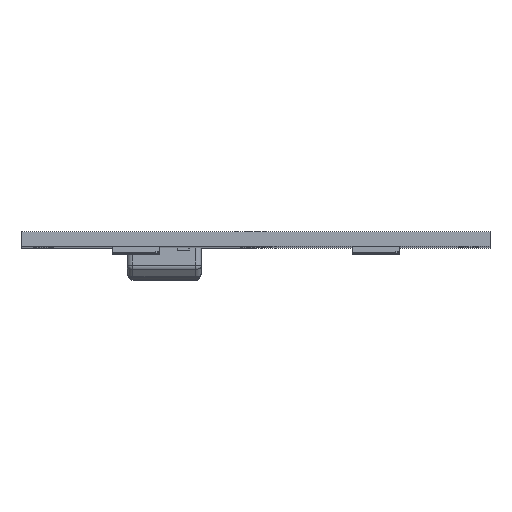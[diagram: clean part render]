
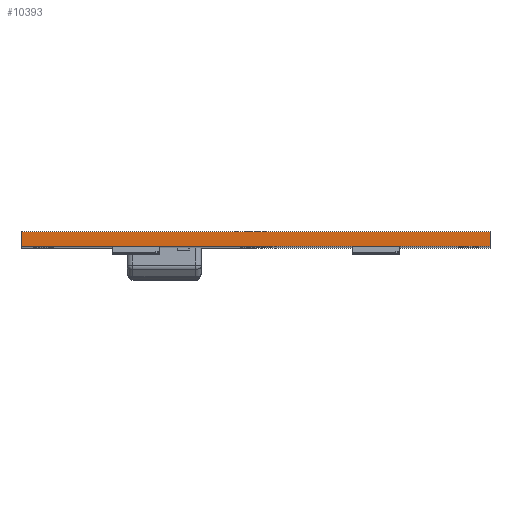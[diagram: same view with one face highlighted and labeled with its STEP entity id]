
A CAD part, top view. The second image highlights one B-rep face of the part: STEP entity #10393.
In plain terms, the highlighted planar face has unit normal (0, 0, 1).
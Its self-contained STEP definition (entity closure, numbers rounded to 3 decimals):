
#885=ORIENTED_EDGE('',*,*,#3065,.F.);
#886=ORIENTED_EDGE('',*,*,#3093,.F.);
#887=ORIENTED_EDGE('',*,*,#3089,.T.);
#888=ORIENTED_EDGE('',*,*,#3091,.T.);
#3065=EDGE_CURVE('',#4180,#4181,#4879,.T.);
#3089=EDGE_CURVE('',#4205,#4204,#4883,.T.);
#3091=EDGE_CURVE('',#4204,#4181,#4885,.T.);
#3093=EDGE_CURVE('',#4205,#4180,#4887,.T.);
#4180=VERTEX_POINT('',#13237);
#4181=VERTEX_POINT('',#13239);
#4204=VERTEX_POINT('',#13296);
#4205=VERTEX_POINT('',#13298);
#4879=LINE('',#13238,#5481);
#4883=LINE('',#13297,#5485);
#4885=LINE('',#13301,#5487);
#4887=LINE('',#13304,#5489);
#5481=VECTOR('',#11461,1000.);
#5485=VECTOR('',#11527,1000.);
#5487=VECTOR('',#11531,1000.);
#5489=VECTOR('',#11535,1000.);
#6077=EDGE_LOOP('',(#885,#886,#887,#888));
#6579=FACE_BOUND('',#6077,.T.);
#7032=PLANE('',#10870);
#10393=ADVANCED_FACE('',(#6579),#7032,.T.);
#10870=AXIS2_PLACEMENT_3D('',#13303,#11533,#11534);
#11461=DIRECTION('',(-1.,0.,0.));
#11527=DIRECTION('',(-1.,0.,0.));
#11531=DIRECTION('',(0.,-1.,0.));
#11533=DIRECTION('',(0.,0.,1.));
#11534=DIRECTION('',(1.,0.,0.));
#11535=DIRECTION('',(0.,-1.,0.));
#13237=CARTESIAN_POINT('',(24.75,0.,60.7));
#13238=CARTESIAN_POINT('',(-24.75,0.,60.7));
#13239=CARTESIAN_POINT('',(-24.75,0.,60.7));
#13296=CARTESIAN_POINT('',(-24.75,1.5,60.7));
#13297=CARTESIAN_POINT('',(-24.75,1.5,60.7));
#13298=CARTESIAN_POINT('',(24.75,1.5,60.7));
#13301=CARTESIAN_POINT('',(-24.75,1.5,60.7));
#13303=CARTESIAN_POINT('',(-24.75,1.5,60.7));
#13304=CARTESIAN_POINT('',(24.75,1.5,60.7));
